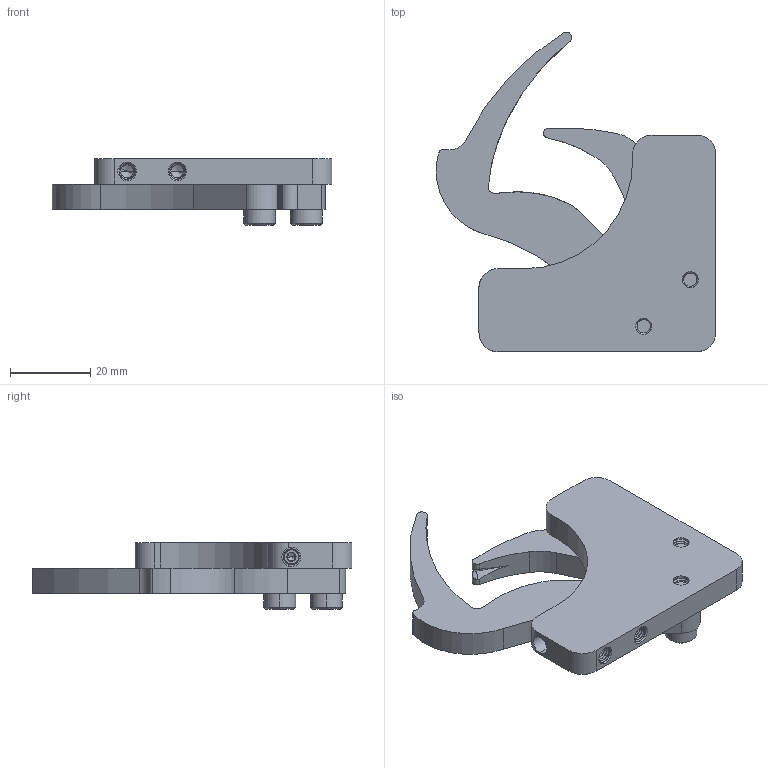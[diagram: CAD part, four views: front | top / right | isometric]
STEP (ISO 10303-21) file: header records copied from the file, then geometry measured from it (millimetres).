
FILE_DESCRIPTION((''),'2;1');
FILE_NAME('TOC-X2_ASM','2021-01-09T',('Administrator'),(''),'CREO PARAMETRIC BY PTC INC, 2015290','CREO PARAMETRIC BY PTC INC, 2015290','');
FILE_SCHEMA(('CONFIG_CONTROL_DESIGN'));
Length unit declared in the file: millimetre
Products named in the file (9): TOC-X2_A2; TOC-X_A3; TOC-X_A4; M4X14_HS; SCREW_M5X10; TOC-X_A6; SPRING_3X20; SPACER_3X0_5; TOC-X2_ASM
Assembly tree (10 placements, depth 2):
  TOC-X2_ASM
    TOC-X2_A2
    TOC-X_A3
    TOC-X_A4
    M4X14_HS
    SCREW_M5X10  x2
    TOC-X_A6  x2
    SPRING_3X20
    SPACER_3X0_5
Bounding box: 69.62 x 79.62 x 16.64 mm (x, y, z)
Volume: 21525.7 mm3; surface area: 13924.5 mm2
Topology: 10 solids, 10 shells, 539 faces, 1416 edges, 908 vertices
Faces by surface type: cylinder 277, bspline 101, plane 94, cone 54, torus 8, extrusion 5
Entity records: 31160 total; most frequent: CARTESIAN_POINT 20861, ORIENTED_EDGE 2384, DIRECTION 1662, EDGE_CURVE 1192, VERTEX_POINT 769, AXIS2_PLACEMENT_3D 608, B_SPLINE_CURVE_WITH_KNOTS 525, EDGE_LOOP 475
